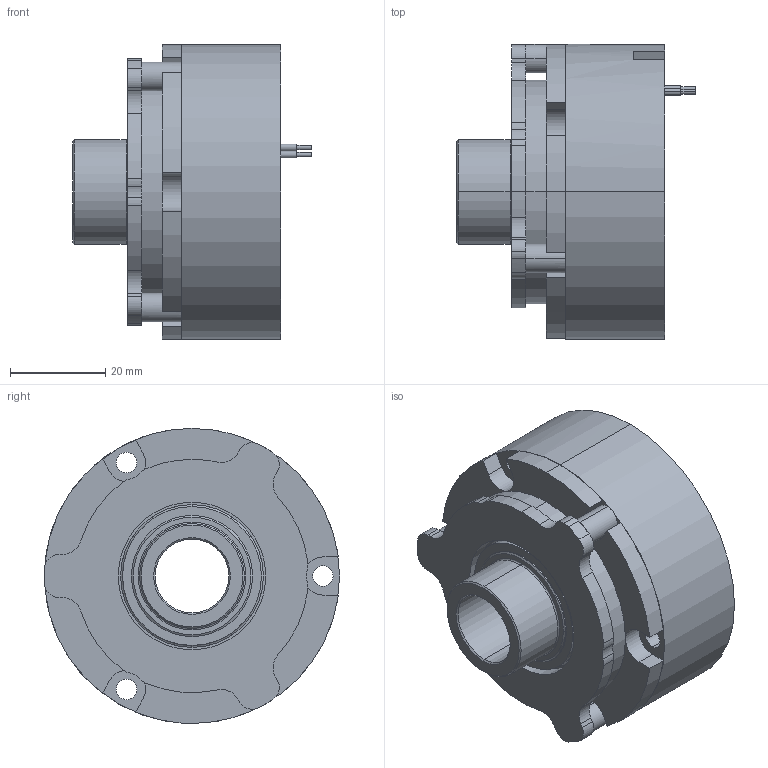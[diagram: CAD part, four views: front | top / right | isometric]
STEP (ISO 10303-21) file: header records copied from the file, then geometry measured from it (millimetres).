
FILE_DESCRIPTION (( 'STEP AP203' ), '1' );
FILE_NAME ('KS_10006A00_00473795.STEP', '2017-11-20T08:54:52', ( '' ), ( '' ), 'SwSTEP 2.0', 'SolidWorks 2015', '' );
FILE_SCHEMA (( 'CONFIG_CONTROL_DESIGN' ));
Length unit declared in the file: millimetre
Products named in the file (1): KS_10006A00_00473795
Bounding box: 50.09 x 62 x 62 mm (x, y, z)
Volume: 81724.2 mm3; surface area: 22649.3 mm2
Topology: 1 solids, 1 shells, 154 faces, 391 edges, 255 vertices
Faces by surface type: cylinder 98, plane 42, cone 6, torus 6, bspline 2
Entity records: 4872 total; most frequent: DIRECTION 919, CARTESIAN_POINT 837, ORIENTED_EDGE 782, EDGE_CURVE 391, AXIS2_PLACEMENT_3D 377, VERTEX_POINT 255, CIRCLE 224, EDGE_LOOP 184
